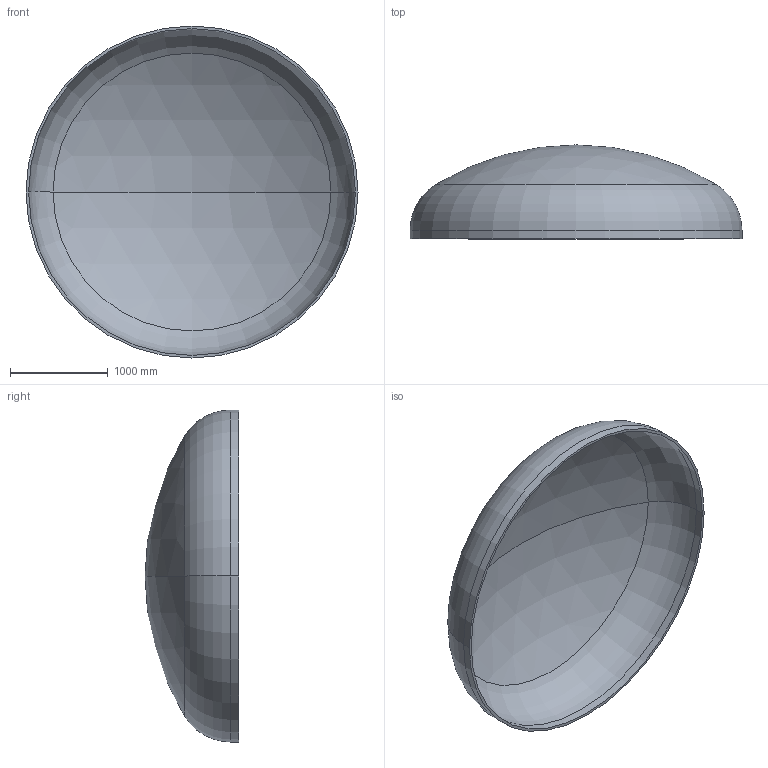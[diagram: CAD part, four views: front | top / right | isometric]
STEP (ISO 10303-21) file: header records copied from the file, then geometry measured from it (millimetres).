
FILE_DESCRIPTION (( 'STEP AP203' ), '1' );
FILE_NAME ('DIN 28013 Korbbogenform_-_Boden DIN 28013 - 3400 x 85 - I - s=27.step', '2016-07-01T19:20:43', ( '' ), ( '' ), 'SwSTEP 2.0', 'SolidWorks 2013', '' );
FILE_SCHEMA (( 'CONFIG_CONTROL_DESIGN' ));
Length unit declared in the file: millimetre
Products named in the file (1): DIN 28013 Korbbogenform_-_Boden DIN 28013 - 3400 x 85 - I - s=27
Bounding box: 3400 x 961.14 x 3400 mm (x, y, z)
Volume: 360463762.3 mm3; surface area: 26988644.1 mm2
Topology: 1 solids, 1 shells, 13 faces, 24 edges, 14 vertices
Faces by surface type: torus 4, cylinder 4, sphere 4, plane 1
Entity records: 407 total; most frequent: DIRECTION 72, CARTESIAN_POINT 52, ORIENTED_EDGE 48, AXIS2_PLACEMENT_3D 34, EDGE_CURVE 24, CIRCLE 20, EDGE_LOOP 14, VERTEX_POINT 14
